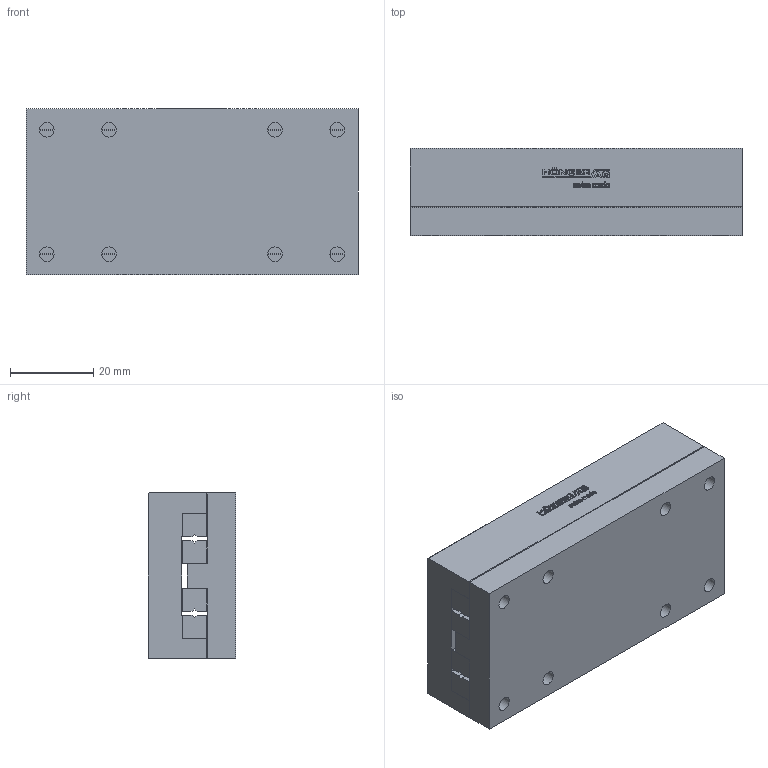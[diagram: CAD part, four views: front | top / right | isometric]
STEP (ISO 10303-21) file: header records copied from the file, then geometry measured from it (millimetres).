
FILE_DESCRIPTION(/* description */ ('STEP AP214'),/* implementation_level */ '2;1');
FILE_NAME(/* name */ 'NK 2-80-B(0)',/* time_stamp */ '2025-04-22T17:48:03+02:00',/* author */ ('License CC BY-ND 4.0'),/* organization */ ('CADENAS'),/* preprocessor_version */ 'ST-DEVELOPER v19.3',/* originating_system */ 'PARTsolutions',/* authorisation */ ' ');
FILE_SCHEMA (('AUTOMOTIVE_DESIGN {1 0 10303 214 3 1 1}'));
Length unit declared in the file: millimetre
Products named in the file (3): NK 2-80-B(0); NK 2-80-B_1; NK 2-80-B_2
Assembly tree (2 placements, depth 2):
  NK 2-80-B(0)
    NK 2-80-B_1
    NK 2-80-B_2
Bounding box: 80 x 21 x 40 mm (x, y, z)
Volume: 63756.7 mm3; surface area: 24665.5 mm2
Topology: 2 solids, 2 shells, 597 faces, 1650 edges, 1092 vertices
Faces by surface type: cylinder 316, plane 265, cone 16
Full cylindrical faces by diameter (mm): 2.459 x8, 3.5 x8, 6 x8
Entity records: 19179 total; most frequent: DIRECTION 3458, CARTESIAN_POINT 3302, ORIENTED_EDGE 3220, EDGE_CURVE 1610, AXIS2_PLACEMENT_3D 1248, VERTEX_POINT 1092, LINE 962, VECTOR 962
